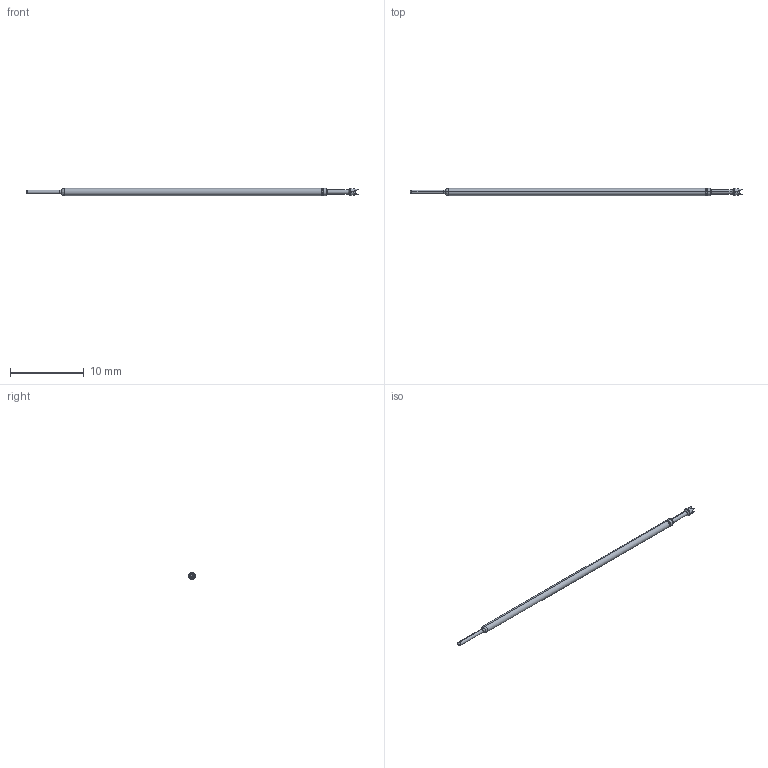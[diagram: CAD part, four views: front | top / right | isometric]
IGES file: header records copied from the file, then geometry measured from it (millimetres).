
Start section: SolidWorks IGES file using analytic representation for surfaces
Global section: file name: C:\Documents and Settings\mrumschlag\Desktop\changes\new\test\L RECD.IGS; native system: SolidWorks 2011; preprocessor: SolidWorks 2011; author: mrumschlag; date: 110630.142311; units: inch
Bounding box: 45.03 x 1.02 x 1.02 mm (x, y, z)
Surface area: 127.3 mm2 (no closed solid volume)
Topology: 0 solids, 0 shells, 37 faces, 194 edges, 192 vertices
Faces by surface type: revolution 20, bspline 17
